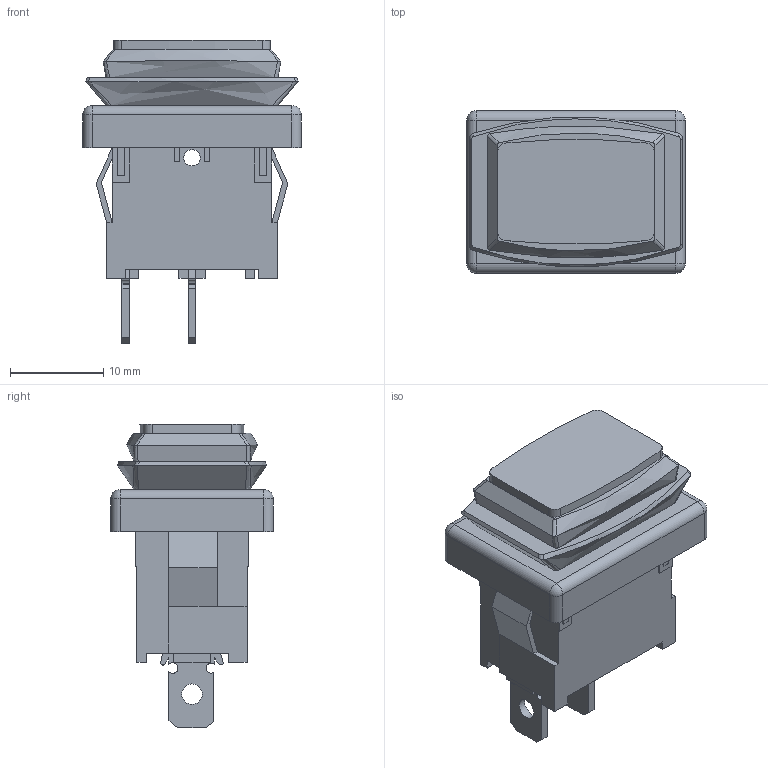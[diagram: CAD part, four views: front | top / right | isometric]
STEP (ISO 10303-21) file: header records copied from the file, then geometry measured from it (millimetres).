
FILE_DESCRIPTION(/* description */ (''),/* implementation_level */ '2;1');
FILE_NAME(/* name */ 'RF3-1A-DC-2-B.stp',/* time_stamp */ '2024-11-04T13:46:54-08:00',/* author */ ('tylerl'),/* organization */ (''),/* preprocessor_version */ 'ST-DEVELOPER v20',/* originating_system */ 'Autodesk Inventor 2025',/* authorisation */ '');
FILE_SCHEMA (('AUTOMOTIVE_DESIGN { 1 0 10303 214 3 1 1 }'));
Products named in the file (3): RF3-1A-DC-2-B; Base; Rocker
Assembly tree (2 placements, depth 2):
  RF3-1A-DC-2-B
    Base
    Rocker
Bounding box: 23.4 x 17.4 x 32.52 mm (x, y, z)
Volume: 6110.1 mm3; surface area: 3486.7 mm2
Topology: 2 solids, 2 shells, 222 faces, 611 edges, 402 vertices
Faces by surface type: plane 167, cylinder 27, bspline 24, sphere 4
Full cylindrical faces by diameter (mm): 1.75 x1, 2.2 x2
Entity records: 8118 total; most frequent: CARTESIAN_POINT 2524, ORIENTED_EDGE 1222, DIRECTION 989, EDGE_CURVE 611, LINE 475, VECTOR 475, VERTEX_POINT 402, AXIS2_PLACEMENT_3D 257
